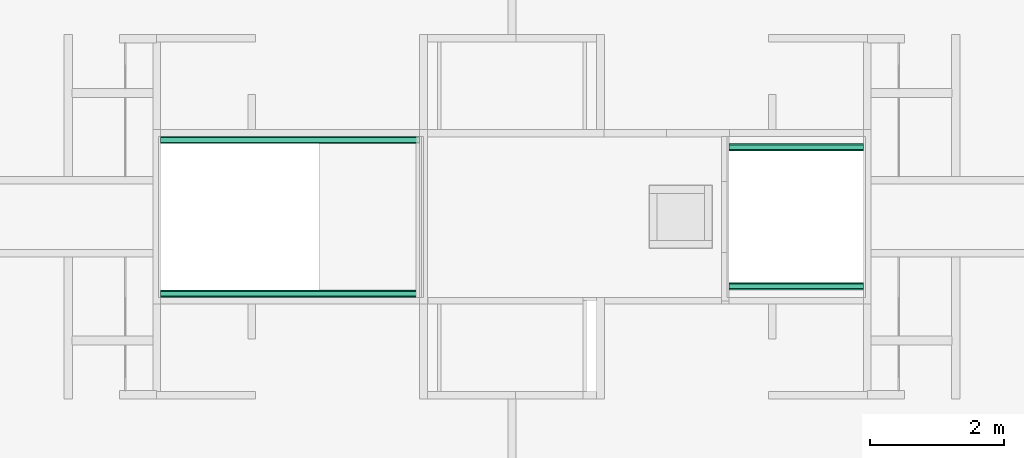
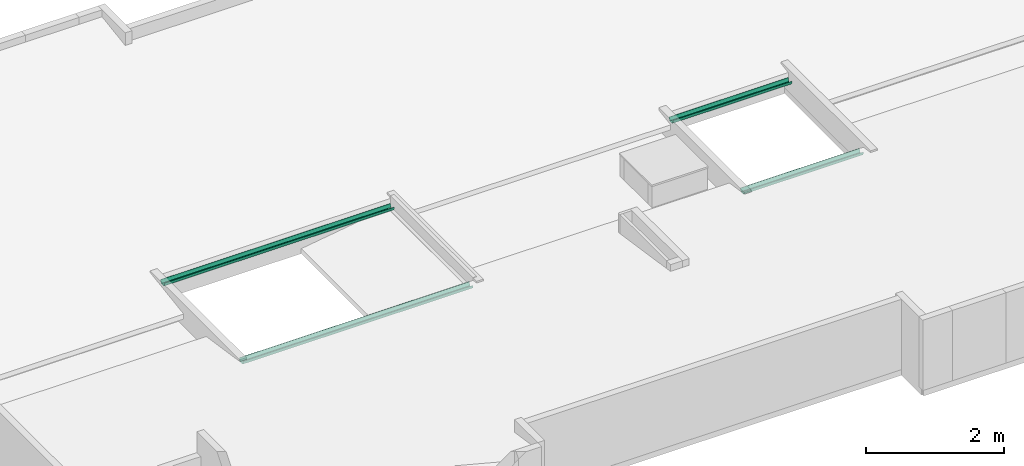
# One storey, part 8 of 9: 3 flow segments.
"""IFC4 building model written with IfcOpenShell, lengths in metres."""

from ifc_helpers import new_model, entity, si_unit, converted_unit, derived_unit, direction, frame, origin, place, context, subcontext, project, spatial, line, arc, indexed_curve, outline, extrude, source, transform, mapped, type_object, type_shapes, element, save


model = new_model("IFC4")

# Units and contexts
model_context = context("Model", 3, precision=1e-05, world=origin(), true_north=direction((6.123031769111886e-17, 1.0)))
body_context = subcontext(model_context, "Body", "Model", "MODEL_VIEW")
ifc_project = project(units=[si_unit("LENGTHUNIT", "METRE"), si_unit("AREAUNIT", "SQUARE_METRE"), si_unit("VOLUMEUNIT", "CUBIC_METRE"), converted_unit("PLANEANGLEUNIT", "DEGREE", entity("IfcRatioMeasure", 0.017453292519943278), si_unit("PLANEANGLEUNIT", "RADIAN"), dimensions=[0, 0, 0, 0, 0, 0, 0]), si_unit("MASSUNIT", "GRAM", prefix="KILO"), derived_unit("MASSDENSITYUNIT", [(si_unit("MASSUNIT", "GRAM", prefix="KILO"), 1), (si_unit("LENGTHUNIT", "METRE"), -3)]), derived_unit("IONCONCENTRATIONUNIT", [(si_unit("MASSUNIT", "GRAM", prefix="KILO"), 1), (si_unit("LENGTHUNIT", "METRE"), -3)]), derived_unit("MOMENTOFINERTIAUNIT", [(si_unit("LENGTHUNIT", "METRE"), 4)]), si_unit("TIMEUNIT", "SECOND"), si_unit("FREQUENCYUNIT", "HERTZ"), si_unit("THERMODYNAMICTEMPERATUREUNIT", "DEGREE_CELSIUS"), derived_unit("THERMALTRANSMITTANCEUNIT", [(si_unit("MASSUNIT", "GRAM", prefix="KILO"), 1), (si_unit("THERMODYNAMICTEMPERATUREUNIT", "KELVIN"), -1), (si_unit("TIMEUNIT", "SECOND"), -3)]), derived_unit("THERMALCONDUCTANCEUNIT", [(si_unit("MASSUNIT", "GRAM", prefix="KILO"), 1), (si_unit("THERMODYNAMICTEMPERATUREUNIT", "KELVIN"), -1), (si_unit("TIMEUNIT", "SECOND"), -3), (si_unit("LENGTHUNIT", "METRE"), 1)]), derived_unit("VOLUMETRICFLOWRATEUNIT", [(si_unit("LENGTHUNIT", "METRE"), 3), (si_unit("TIMEUNIT", "SECOND"), -1)]), derived_unit("MASSFLOWRATEUNIT", [(si_unit("MASSUNIT", "GRAM", prefix="KILO"), 1), (si_unit("TIMEUNIT", "SECOND"), -1)]), derived_unit("ROTATIONALFREQUENCYUNIT", [(si_unit("TIMEUNIT", "SECOND"), -1)]), si_unit("ELECTRICCURRENTUNIT", "AMPERE"), si_unit("ELECTRICVOLTAGEUNIT", "VOLT"), si_unit("POWERUNIT", "WATT"), si_unit("FORCEUNIT", "NEWTON", prefix="KILO"), si_unit("ILLUMINANCEUNIT", "LUX"), si_unit("LUMINOUSFLUXUNIT", "LUMEN"), si_unit("LUMINOUSINTENSITYUNIT", "CANDELA"), derived_unit("USERDEFINED", [(si_unit("MASSUNIT", "GRAM", prefix="KILO"), -1), (si_unit("LENGTHUNIT", "METRE"), -2), (si_unit("TIMEUNIT", "SECOND"), 3), (si_unit("LUMINOUSFLUXUNIT", "LUMEN"), 1)]), derived_unit("USERDEFINED", [(si_unit("MASSUNIT", "GRAM", prefix="KILO"), 1), (si_unit("TIMEUNIT", "SECOND"), -3), (si_unit("LENGTHUNIT", "METRE"), 3), (si_unit("ELECTRICCURRENTUNIT", "AMPERE"), -2)]), derived_unit("SOUNDPOWERUNIT", [(si_unit("MASSUNIT", "GRAM", prefix="KILO"), 1), (si_unit("TIMEUNIT", "SECOND"), -3), (si_unit("LENGTHUNIT", "METRE"), 2)]), derived_unit("SOUNDPRESSUREUNIT", [(si_unit("MASSUNIT", "GRAM", prefix="KILO"), 1), (si_unit("LENGTHUNIT", "METRE"), -1), (si_unit("TIMEUNIT", "SECOND"), -2)]), derived_unit("LINEARVELOCITYUNIT", [(si_unit("LENGTHUNIT", "METRE"), 1), (si_unit("TIMEUNIT", "SECOND"), -1)]), si_unit("PRESSUREUNIT", "PASCAL"), derived_unit("USERDEFINED", [(si_unit("MASSUNIT", "GRAM", prefix="KILO"), 1), (si_unit("LENGTHUNIT", "METRE"), -2), (si_unit("TIMEUNIT", "SECOND"), -2)]), derived_unit("LINEARFORCEUNIT", [(si_unit("MASSUNIT", "GRAM", prefix="KILO"), 1), (si_unit("TIMEUNIT", "SECOND"), -2)]), derived_unit("PLANARFORCEUNIT", [(si_unit("MASSUNIT", "GRAM", prefix="KILO"), 1), (si_unit("LENGTHUNIT", "METRE"), -1), (si_unit("TIMEUNIT", "SECOND"), -2)]), derived_unit("SPECIFICHEATCAPACITYUNIT", [(si_unit("THERMODYNAMICTEMPERATUREUNIT", "KELVIN"), -1), (si_unit("LENGTHUNIT", "METRE"), 2), (si_unit("TIMEUNIT", "SECOND"), -2)]), derived_unit("HEATINGVALUEUNIT", [(si_unit("LENGTHUNIT", "METRE"), 2), (si_unit("TIMEUNIT", "SECOND"), -2)]), derived_unit("VAPORPERMEABILITYUNIT", [(si_unit("LENGTHUNIT", "METRE"), -1), (si_unit("TIMEUNIT", "SECOND"), 1)]), derived_unit("DYNAMICVISCOSITYUNIT", [(si_unit("MASSUNIT", "GRAM", prefix="KILO"), 1), (si_unit("TIMEUNIT", "SECOND"), -1), (si_unit("LENGTHUNIT", "METRE"), -1)]), derived_unit("THERMALEXPANSIONCOEFFICIENTUNIT", [(si_unit("THERMODYNAMICTEMPERATUREUNIT", "KELVIN"), -1)]), derived_unit("MODULUSOFELASTICITYUNIT", [(si_unit("MASSUNIT", "GRAM", prefix="KILO"), 1), (si_unit("LENGTHUNIT", "METRE"), -1), (si_unit("TIMEUNIT", "SECOND"), -2)]), derived_unit("ISOTHERMALMOISTURECAPACITYUNIT", [(si_unit("LENGTHUNIT", "METRE"), 3), (si_unit("MASSUNIT", "GRAM", prefix="KILO"), -1)]), derived_unit("MOISTUREDIFFUSIVITYUNIT", [(si_unit("TIMEUNIT", "SECOND"), -1), (si_unit("LENGTHUNIT", "METRE"), 2)])], contexts=[model_context])

# Site, building, storey
site_placement = place(None, origin())
site = spatial("IfcSite", under=ifc_project, at=site_placement, Name="Default", CompositionType="ELEMENT")
building_placement = place(site_placement, origin())
building = spatial("IfcBuilding", under=site, at=building_placement, CompositionType="ELEMENT")
storey_placement = place(building_placement, frame((0.0, 0.0, 14.10000000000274)))
storey = spatial("IfcBuildingStorey", under=building, at=storey_placement, Name="Nivel 7", CompositionType="ELEMENT", Elevation=14.10000000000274)

# Flow segments
pipe_segment_type_1 = type_object("IfcPipeSegmentType", Name="Gutter:D2030 - 0.115 m x 0.063m - Canal aguas lluvias - PVC", PredefinedType="GUTTER")
shared_shape_1 = source(origin(), body_context, "Body", "SweptSolid", [
    extrude(outline(indexed_curve([(-0.05240916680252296, 0.018045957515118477), (-0.05240916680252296, 0.033702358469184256), (-0.055409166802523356, 0.033702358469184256), (-0.055409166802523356, 0.018045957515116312), (-0.05438989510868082, 0.008739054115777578), (-0.051380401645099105, -0.0001266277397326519), (-0.040171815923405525, -0.024163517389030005), (-0.036297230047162, -0.028581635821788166), (-0.030655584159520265, -0.030226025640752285), (0.030655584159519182, -0.030226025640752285), (0.03629723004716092, -0.028581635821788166), (0.04017181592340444, -0.024163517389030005), (0.05138040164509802, -0.0001266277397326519), (0.05438989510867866, 0.008739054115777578), (0.05540916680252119, 0.018045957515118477), (0.055409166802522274, 0.033702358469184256), (0.052409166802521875, 0.033702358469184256), (0.05240916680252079, 0.018045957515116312), (0.05146100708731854, 0.009388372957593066), (0.04866147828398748, 0.0011412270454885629), (0.03745289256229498, -0.022895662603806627), (0.034685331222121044, -0.026051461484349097), (0.030655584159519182, -0.027226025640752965), (-0.030655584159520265, -0.027226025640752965), (-0.034685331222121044, -0.026051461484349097), (-0.037452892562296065, -0.022895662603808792), (-0.048661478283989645, 0.0011412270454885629), (-0.0514610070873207, 0.009388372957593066)], segments=[line(1, 2, 3, 4), arc(4, 5, 6), line(6, 7), arc(7, 8, 9), line(9, 10), arc(10, 11, 12), line(12, 13), arc(13, 14, 15), line(15, 16, 17, 18), arc(18, 19, 20), line(20, 21), arc(21, 22, 23), line(23, 24), arc(24, 25, 26), line(26, 27), arc(27, 28, 1)], self_intersect=False)), frame((4.087499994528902, -5.280909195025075, 0.2348299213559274), z_axis=(-1.0, 0.0, 0.0), x_axis=(0.0, -1.0, 0.0)), (0.0, 0.0, -1.0), 3.860000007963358),
    extrude(outline(indexed_curve([(-0.052409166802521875, 0.018045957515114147), (-0.052409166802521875, 0.033702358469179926), (-0.055409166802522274, 0.033702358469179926), (-0.055409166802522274, 0.01804595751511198), (-0.05438989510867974, 0.008739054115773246), (-0.05138040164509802, -0.00012662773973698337), (-0.04017181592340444, -0.02416351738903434), (-0.03629723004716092, -0.0285816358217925), (-0.030655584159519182, -0.030226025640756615), (0.030655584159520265, -0.030226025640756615), (0.036297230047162, -0.0285816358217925), (0.040171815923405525, -0.02416351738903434), (0.051380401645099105, -0.00012662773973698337), (0.05438989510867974, 0.008739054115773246), (0.055409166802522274, 0.018045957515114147), (0.055409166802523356, 0.033702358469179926), (0.05240916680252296, 0.033702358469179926), (0.052409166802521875, 0.01804595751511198), (0.05146100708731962, 0.009388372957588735), (0.04866147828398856, 0.0011412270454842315), (0.037452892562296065, -0.022895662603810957), (0.034685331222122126, -0.02605146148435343), (0.030655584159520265, -0.0272260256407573), (-0.030655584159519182, -0.0272260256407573), (-0.03468533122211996, -0.02605146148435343), (-0.03745289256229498, -0.02289566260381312), (-0.04866147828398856, 0.0011412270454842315), (-0.05146100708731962, 0.009388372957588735)], segments=[line(1, 2, 3, 4), arc(4, 5, 6), line(6, 7), arc(7, 8, 9), line(9, 10), arc(10, 11, 12), line(12, 13), arc(13, 14, 15), line(15, 16, 17, 18), arc(18, 19, 20), line(20, 21), arc(21, 22, 23), line(23, 24), arc(24, 25, 26), line(26, 27), arc(27, 28, 1)], self_intersect=False)), frame((12.557500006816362, -5.388409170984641, 0.21870492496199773), z_axis=(-1.0, 0.0, 0.0), x_axis=(0.0, -1.0, 0.0)), (0.0, 0.0, -1.0), 1.9999999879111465),
])
type_shapes(pipe_segment_type_1, [shared_shape_1])
flow_segment_1_placement = place(storey_placement, origin())
element("IfcFlowSegment", 1, at=flow_segment_1_placement, inside=storey, type_object=pipe_segment_type_1, Name="Gutter:D2030 - 0.115 m x 0.063m - Canal aguas lluvias - PVC", ObjectType="Gutter:D2030 - 0.115 m x 0.063m - Canal aguas lluvias - PVC", context=body_context, shape_type="MappedRepresentation", body=[
    mapped(shared_shape_1, transform((0.0, 0.0, 0.0), scale=1.0)),
])
pipe_segment_type_2 = type_object("IfcPipeSegmentType", Name="Gutter:D2030 - 0.115 m x 0.063m - Canal aguas lluvias - PVC", PredefinedType="GUTTER")
shared_shape_2 = source(origin(), body_context, "Body", "SweptSolid", [
    extrude(outline(indexed_curve([(0.018045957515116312, 0.052409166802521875), (0.03370235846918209, 0.052409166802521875), (0.03370235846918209, 0.055409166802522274), (0.018045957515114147, 0.055409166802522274), (0.008739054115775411, 0.05438989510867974), (-0.00012662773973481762, 0.05138040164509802), (-0.024163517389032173, 0.04017181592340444), (-0.02858163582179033, 0.03629723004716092), (-0.03022602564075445, 0.030655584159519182), (-0.03022602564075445, -0.030655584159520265), (-0.02858163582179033, -0.036297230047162), (-0.024163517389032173, -0.040171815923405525), (-0.00012662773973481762, -0.051380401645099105), (0.008739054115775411, -0.05438989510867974), (0.018045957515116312, -0.055409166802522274), (0.03370235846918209, -0.055409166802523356), (0.03370235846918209, -0.05240916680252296), (0.018045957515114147, -0.052409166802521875), (0.009388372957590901, -0.05146100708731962), (0.0011412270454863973, -0.04866147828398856), (-0.022895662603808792, -0.037452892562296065), (-0.026051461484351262, -0.034685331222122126), (-0.027226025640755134, -0.030655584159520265), (-0.027226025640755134, 0.030655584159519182), (-0.026051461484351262, 0.03468533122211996), (-0.022895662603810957, 0.03745289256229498), (0.0011412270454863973, 0.04866147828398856), (0.009388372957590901, 0.05146100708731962)], segments=[line(1, 2, 3, 4), arc(4, 5, 6), line(6, 7), arc(7, 8, 9), line(9, 10), arc(10, 11, 12), line(12, 13), arc(13, 14, 15), line(15, 16, 17, 18), arc(18, 19, 20), line(20, 21), arc(21, 22, 23), line(23, 24), arc(24, 25, 26), line(26, 27), arc(27, 28, 1)], self_intersect=False)), frame((4.087499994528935, -7.569590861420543, 0.2349049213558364), z_axis=(1.0, 0.0, 0.0), x_axis=(0.0, 0.0, 1.0)), (0.0, 0.0, 1.0), 3.860000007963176),
    extrude(outline(indexed_curve([(0.018045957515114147, 0.05240916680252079), (0.033702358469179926, 0.05240916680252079), (0.033702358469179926, 0.05540916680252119), (0.01804595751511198, 0.05540916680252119), (0.008739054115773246, 0.05438989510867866), (-0.00012662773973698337, 0.05138040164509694), (-0.02416351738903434, 0.04017181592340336), (-0.0285816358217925, 0.03629723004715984), (-0.030226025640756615, 0.0306555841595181), (-0.030226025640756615, -0.030655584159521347), (-0.0285816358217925, -0.036297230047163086), (-0.02416351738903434, -0.04017181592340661), (-0.00012662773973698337, -0.05138040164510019), (0.008739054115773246, -0.05438989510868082), (0.018045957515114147, -0.055409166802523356), (0.033702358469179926, -0.05540916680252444), (0.033702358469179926, -0.05240916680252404), (0.01804595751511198, -0.05240916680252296), (0.009388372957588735, -0.0514610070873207), (0.0011412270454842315, -0.048661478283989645), (-0.022895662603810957, -0.03745289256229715), (-0.02605146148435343, -0.03468533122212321), (-0.0272260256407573, -0.030655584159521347), (-0.0272260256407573, 0.0306555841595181), (-0.02605146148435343, 0.03468533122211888), (-0.02289566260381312, 0.0374528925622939), (0.0011412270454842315, 0.04866147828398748), (0.009388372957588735, 0.05146100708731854)], segments=[line(1, 2, 3, 4), arc(4, 5, 6), line(6, 7), arc(7, 8, 9), line(9, 10), arc(10, 11, 12), line(12, 13), arc(13, 14, 15), line(15, 16, 17, 18), arc(18, 19, 20), line(20, 21), arc(21, 22, 23), line(23, 24), arc(24, 25, 26), line(26, 27), arc(27, 28, 1)], self_intersect=False)), frame((12.557500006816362, -7.461590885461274, 0.21870492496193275), z_axis=(1.0, 0.0, 0.0), x_axis=(0.0, 0.0, 1.0)), (0.0, 0.0, 1.0), 1.9999999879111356),
])
type_shapes(pipe_segment_type_2, [shared_shape_2])
flow_segment_2_placement = place(storey_placement, origin())
element("IfcFlowSegment", 2, at=flow_segment_2_placement, inside=storey, type_object=pipe_segment_type_2, Name="Gutter:D2030 - 0.115 m x 0.063m - Canal aguas lluvias - PVC", ObjectType="Gutter:D2030 - 0.115 m x 0.063m - Canal aguas lluvias - PVC", context=body_context, shape_type="MappedRepresentation", body=[
    mapped(shared_shape_2, transform((0.0, 0.0, 0.0), scale=1.0)),
])
pipe_segment_type_3 = type_object("IfcPipeSegmentType", Name="Gutter:D2030 - 0.115 m x 0.063m - Canal aguas lluvias - PVC", PredefinedType="GUTTER")
shared_shape_3 = source(origin(), body_context, "Body", "SweptSolid", [
    extrude(outline(indexed_curve([(-0.052409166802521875, 0.018045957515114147), (-0.052409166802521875, 0.033702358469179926), (-0.055409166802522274, 0.033702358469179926), (-0.055409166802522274, 0.01804595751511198), (-0.05438989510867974, 0.008739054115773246), (-0.05138040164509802, -0.00012662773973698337), (-0.04017181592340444, -0.02416351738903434), (-0.03629723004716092, -0.0285816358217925), (-0.030655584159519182, -0.030226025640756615), (0.030655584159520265, -0.030226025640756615), (0.036297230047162, -0.0285816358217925), (0.040171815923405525, -0.02416351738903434), (0.051380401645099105, -0.00012662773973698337), (0.05438989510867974, 0.008739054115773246), (0.055409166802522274, 0.018045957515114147), (0.055409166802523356, 0.033702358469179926), (0.05240916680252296, 0.033702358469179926), (0.052409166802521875, 0.01804595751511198), (0.05146100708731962, 0.009388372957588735), (0.04866147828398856, 0.0011412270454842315), (0.037452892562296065, -0.022895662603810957), (0.034685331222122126, -0.02605146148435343), (0.030655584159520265, -0.0272260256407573), (-0.030655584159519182, -0.0272260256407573), (-0.03468533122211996, -0.02605146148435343), (-0.03745289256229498, -0.02289566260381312), (-0.04866147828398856, 0.0011412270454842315), (-0.05146100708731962, 0.009388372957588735)], segments=[line(1, 2, 3, 4), arc(4, 5, 6), line(6, 7), arc(7, 8, 9), line(9, 10), arc(10, 11, 12), line(12, 13), arc(13, 14, 15), line(15, 16, 17, 18), arc(18, 19, 20), line(20, 21), arc(21, 22, 23), line(23, 24), arc(24, 25, 26), line(26, 27), arc(27, 28, 1)], self_intersect=False)), frame((12.557500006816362, -5.388409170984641, 0.21870492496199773), z_axis=(-1.0, 0.0, 0.0), x_axis=(0.0, -1.0, 0.0)), (0.0, 0.0, -1.0), 1.9999999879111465),
    extrude(outline(indexed_curve([(-0.05240916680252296, 0.018045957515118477), (-0.05240916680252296, 0.033702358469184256), (-0.055409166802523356, 0.033702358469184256), (-0.055409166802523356, 0.018045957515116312), (-0.05438989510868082, 0.008739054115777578), (-0.051380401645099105, -0.0001266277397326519), (-0.040171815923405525, -0.024163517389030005), (-0.036297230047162, -0.028581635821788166), (-0.030655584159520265, -0.030226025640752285), (0.030655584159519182, -0.030226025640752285), (0.03629723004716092, -0.028581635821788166), (0.04017181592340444, -0.024163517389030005), (0.05138040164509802, -0.0001266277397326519), (0.05438989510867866, 0.008739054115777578), (0.05540916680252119, 0.018045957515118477), (0.055409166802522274, 0.033702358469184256), (0.052409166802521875, 0.033702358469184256), (0.05240916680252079, 0.018045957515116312), (0.05146100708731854, 0.009388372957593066), (0.04866147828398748, 0.0011412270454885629), (0.03745289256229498, -0.022895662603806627), (0.034685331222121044, -0.026051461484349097), (0.030655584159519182, -0.027226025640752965), (-0.030655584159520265, -0.027226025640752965), (-0.034685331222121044, -0.026051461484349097), (-0.037452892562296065, -0.022895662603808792), (-0.048661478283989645, 0.0011412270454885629), (-0.0514610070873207, 0.009388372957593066)], segments=[line(1, 2, 3, 4), arc(4, 5, 6), line(6, 7), arc(7, 8, 9), line(9, 10), arc(10, 11, 12), line(12, 13), arc(13, 14, 15), line(15, 16, 17, 18), arc(18, 19, 20), line(20, 21), arc(21, 22, 23), line(23, 24), arc(24, 25, 26), line(26, 27), arc(27, 28, 1)], self_intersect=False)), frame((4.087499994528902, -5.280909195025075, 0.2348299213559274), z_axis=(-1.0, 0.0, 0.0), x_axis=(0.0, -1.0, 0.0)), (0.0, 0.0, -1.0), 3.860000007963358),
])
type_shapes(pipe_segment_type_3, [shared_shape_3])
flow_segment_3_placement = place(storey_placement, origin())
element("IfcFlowSegment", 3, at=flow_segment_3_placement, inside=storey, type_object=pipe_segment_type_3, Name="Gutter:D2030 - 0.115 m x 0.063m - Canal aguas lluvias - PVC", ObjectType="Gutter:D2030 - 0.115 m x 0.063m - Canal aguas lluvias - PVC", context=body_context, shape_type="MappedRepresentation", body=[
    mapped(shared_shape_3, transform((0.0, 0.0, 0.0), scale=1.0)),
])

save(model, "model.ifc")
